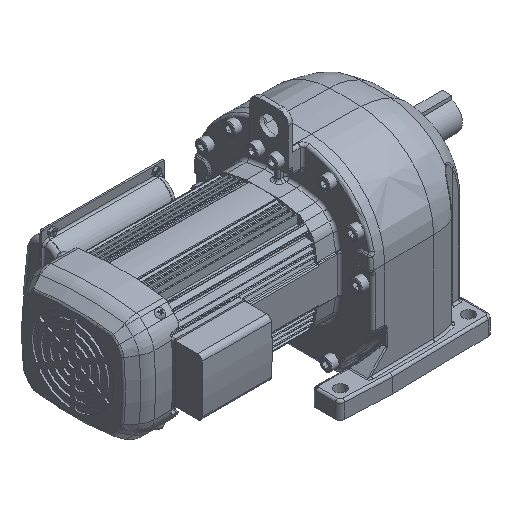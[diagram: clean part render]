
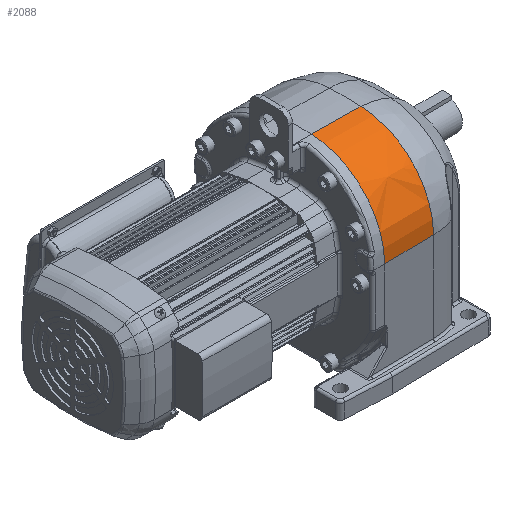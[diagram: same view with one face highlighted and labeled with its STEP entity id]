
A CAD part, isometric view. The second image highlights one B-rep face of the part: STEP entity #2088.
In plain terms, the highlighted free-form (B-spline) face has degree [3, 2] with [12, 3] control points.
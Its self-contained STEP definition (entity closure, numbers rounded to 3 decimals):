
#2088 = ADVANCED_FACE( '', ( #5879 ), #5880, .T. );
#5879 = FACE_OUTER_BOUND( '', #12218, .T. );
#5880 = ( BOUNDED_SURFACE(  )B_SPLINE_SURFACE( 3, 2, ( ( #12221, #12222, #12223 ), ( #12224, #12225, #12226 ), ( #12227, #12228, #12229 ), ( #12230, #12231, #12232 ), ( #12233, #12234, #12235 ), ( #12236, #12237, #12238 ), ( #12239, #12240, #12241 ), ( #12242, #12243, #12244 ), ( #12245, #12246, #12247 ), ( #12248, #12249, #12250 ), ( #12251, #12252, #12253 ), ( #12254, #12255, #12256 ) ), .UNSPECIFIED., .F., .F., .F. )B_SPLINE_SURFACE_WITH_KNOTS( ( 4, 1, 1, 1, 1, 1, 1, 1, 1, 4 ), ( 3, 3 ), ( 0., 0.008, 0.016, 0.031, 0.063, 0.125, 0.2, 0.25, 0.5, 1. ), ( 0., 1. ), .UNSPECIFIED. )GEOMETRIC_REPRESENTATION_ITEM(  )RATIONAL_B_SPLINE_SURFACE( ( ( 1., 0.719, 1. ), ( 1., 0.719, 1. ), ( 1., 0.719, 1. ), ( 1., 0.719, 1. ), ( 1., 0.719, 1. ), ( 1., 0.719, 1. ), ( 1., 0.719, 1. ), ( 1., 0.719, 1. ), ( 1., 0.719, 1. ), ( 1., 0.719, 1. ), ( 1., 0.719, 1. ), ( 1., 0.719, 1. ) ) )REPRESENTATION_ITEM( '' )SURFACE(  ) );
#12218 = EDGE_LOOP( '', ( #28638, #28639, #28640, #28641 ) );
#12221 = CARTESIAN_POINT( '', ( 196.061, 30.364, 80.803 ) );
#12222 = CARTESIAN_POINT( '', ( 196.061, -46.08, 78.253 ) );
#12223 = CARTESIAN_POINT( '', ( 196.061, -46.08, 1.767 ) );
#12224 = CARTESIAN_POINT( '', ( 195.924, 30.364, 80.805 ) );
#12225 = CARTESIAN_POINT( '', ( 195.924, -46.082, 78.255 ) );
#12226 = CARTESIAN_POINT( '', ( 195.929, -46.082, 1.766 ) );
#12227 = CARTESIAN_POINT( '', ( 195.651, 30.363, 80.81 ) );
#12228 = CARTESIAN_POINT( '', ( 195.651, -46.087, 78.26 ) );
#12229 = CARTESIAN_POINT( '', ( 195.649, -46.087, 1.766 ) );
#12230 = CARTESIAN_POINT( '', ( 195.104, 30.363, 80.819 ) );
#12231 = CARTESIAN_POINT( '', ( 195.104, -46.097, 78.269 ) );
#12232 = CARTESIAN_POINT( '', ( 195.105, -46.097, 1.767 ) );
#12233 = CARTESIAN_POINT( '', ( 194.146, 30.364, 80.836 ) );
#12234 = CARTESIAN_POINT( '', ( 194.146, -46.114, 78.286 ) );
#12235 = CARTESIAN_POINT( '', ( 194.146, -46.114, 1.768 ) );
#12236 = CARTESIAN_POINT( '', ( 192.232, 30.365, 80.87 ) );
#12237 = CARTESIAN_POINT( '', ( 192.232, -46.147, 78.318 ) );
#12238 = CARTESIAN_POINT( '', ( 192.233, -46.147, 1.77 ) );
#12239 = CARTESIAN_POINT( '', ( 189.278, 30.368, 80.922 ) );
#12240 = CARTESIAN_POINT( '', ( 189.278, -46.199, 78.368 ) );
#12241 = CARTESIAN_POINT( '', ( 189.278, -46.199, 1.775 ) );
#12242 = CARTESIAN_POINT( '', ( 185.996, 30.373, 80.979 ) );
#12243 = CARTESIAN_POINT( '', ( 185.996, -46.257, 78.424 ) );
#12244 = CARTESIAN_POINT( '', ( 185.997, -46.257, 1.782 ) );
#12245 = CARTESIAN_POINT( '', ( 179.433, 30.377, 81.094 ) );
#12246 = CARTESIAN_POINT( '', ( 179.433, -46.372, 78.536 ) );
#12247 = CARTESIAN_POINT( '', ( 179.433, -46.372, 1.79 ) );
#12248 = CARTESIAN_POINT( '', ( 165.43, 30.369, 81.34 ) );
#12249 = CARTESIAN_POINT( '', ( 165.43, -46.617, 78.773 ) );
#12250 = CARTESIAN_POINT( '', ( 165.43, -46.617, 1.789 ) );
#12251 = CARTESIAN_POINT( '', ( 152.303, 30.353, 81.569 ) );
#12252 = CARTESIAN_POINT( '', ( 152.303, -46.847, 78.995 ) );
#12253 = CARTESIAN_POINT( '', ( 152.303, -46.847, 1.781 ) );
#12254 = CARTESIAN_POINT( '', ( 143.551, 30.333, 81.722 ) );
#12255 = CARTESIAN_POINT( '', ( 143.551, -47., 79.143 ) );
#12256 = CARTESIAN_POINT( '', ( 143.551, -47., 1.767 ) );
#28638 = ORIENTED_EDGE( '', *, *, #43099, .T. );
#28639 = ORIENTED_EDGE( '', *, *, #43100, .F. );
#28640 = ORIENTED_EDGE( '', *, *, #43101, .F. );
#28641 = ORIENTED_EDGE( '', *, *, #43102, .F. );
#43099 = EDGE_CURVE( '', #49240, #49444, #49445, .T. );
#43100 = EDGE_CURVE( '', #49446, #49444, #49447, .T. );
#43101 = EDGE_CURVE( '', #48847, #49446, #49448, .T. );
#43102 = EDGE_CURVE( '', #49240, #48847, #49449, .T. );
#48847 = VERTEX_POINT( '', #58112 );
#49240 = VERTEX_POINT( '', #58930 );
#49444 = VERTEX_POINT( '', #59213 );
#49445 = B_SPLINE_CURVE_WITH_KNOTS( '', 3, ( #59214, #59215, #59216, #59217, #59218, #59219, #59220, #59221, #59222, #59223, #59224, #59225 ), .UNSPECIFIED., .F., .F., ( 4, 1, 1, 1, 1, 1, 1, 1, 1, 4 ), ( 0., 0.008, 0.016, 0.031, 0.063, 0.125, 0.2, 0.25, 0.5, 1. ), .UNSPECIFIED. );
#49446 = VERTEX_POINT( '', #59226 );
#49447 = CIRCLE( '', #59227, 80. );
#49448 = B_SPLINE_CURVE_WITH_KNOTS( '', 3, ( #59228, #59229, #59230, #59231, #59232, #59233, #59234, #59235, #59236, #59237, #59238, #59239 ), .UNSPECIFIED., .F., .F., ( 4, 1, 1, 1, 1, 1, 1, 1, 1, 4 ), ( 0., 0.008, 0.016, 0.031, 0.063, 0.125, 0.2, 0.25, 0.5, 1. ), .UNSPECIFIED. );
#49449 = CIRCLE( '', #59240, 79.08 );
#58112 = CARTESIAN_POINT( '', ( 196.061, -46.08, 1.767 ) );
#58930 = CARTESIAN_POINT( '', ( 196.061, 30.364, 80.803 ) );
#59213 = CARTESIAN_POINT( '', ( 143.551, 30.333, 81.722 ) );
#59214 = CARTESIAN_POINT( '', ( 196.061, 30.364, 80.803 ) );
#59215 = CARTESIAN_POINT( '', ( 195.924, 30.364, 80.805 ) );
#59216 = CARTESIAN_POINT( '', ( 195.651, 30.363, 80.81 ) );
#59217 = CARTESIAN_POINT( '', ( 195.104, 30.363, 80.819 ) );
#59218 = CARTESIAN_POINT( '', ( 194.146, 30.364, 80.836 ) );
#59219 = CARTESIAN_POINT( '', ( 192.232, 30.365, 80.87 ) );
#59220 = CARTESIAN_POINT( '', ( 189.278, 30.368, 80.922 ) );
#59221 = CARTESIAN_POINT( '', ( 185.996, 30.373, 80.979 ) );
#59222 = CARTESIAN_POINT( '', ( 179.433, 30.377, 81.094 ) );
#59223 = CARTESIAN_POINT( '', ( 165.43, 30.369, 81.34 ) );
#59224 = CARTESIAN_POINT( '', ( 152.303, 30.353, 81.569 ) );
#59225 = CARTESIAN_POINT( '', ( 143.551, 30.333, 81.722 ) );
#59226 = CARTESIAN_POINT( '', ( 143.551, -47., 1.767 ) );
#59227 = AXIS2_PLACEMENT_3D( '', #74858, #74859, #74860 );
#59228 = CARTESIAN_POINT( '', ( 196.061, -46.08, 1.767 ) );
#59229 = CARTESIAN_POINT( '', ( 195.929, -46.082, 1.766 ) );
#59230 = CARTESIAN_POINT( '', ( 195.649, -46.087, 1.766 ) );
#59231 = CARTESIAN_POINT( '', ( 195.105, -46.097, 1.767 ) );
#59232 = CARTESIAN_POINT( '', ( 194.146, -46.114, 1.768 ) );
#59233 = CARTESIAN_POINT( '', ( 192.233, -46.147, 1.77 ) );
#59234 = CARTESIAN_POINT( '', ( 189.278, -46.199, 1.775 ) );
#59235 = CARTESIAN_POINT( '', ( 185.997, -46.257, 1.782 ) );
#59236 = CARTESIAN_POINT( '', ( 179.433, -46.372, 1.79 ) );
#59237 = CARTESIAN_POINT( '', ( 165.43, -46.617, 1.789 ) );
#59238 = CARTESIAN_POINT( '', ( 152.303, -46.847, 1.781 ) );
#59239 = CARTESIAN_POINT( '', ( 143.551, -47., 1.767 ) );
#59240 = AXIS2_PLACEMENT_3D( '', #74861, #74862, #74863 );
#74858 = CARTESIAN_POINT( '', ( 143.551, 33., 1.767 ) );
#74859 = DIRECTION( '', ( -1., 0., 0. ) );
#74860 = DIRECTION( '', ( 0., 1., 0. ) );
#74861 = CARTESIAN_POINT( '', ( 196.061, 33., 1.767 ) );
#74862 = DIRECTION( '', ( 1., 0., 0. ) );
#74863 = DIRECTION( '', ( 0., -0.033, 0.999 ) );
